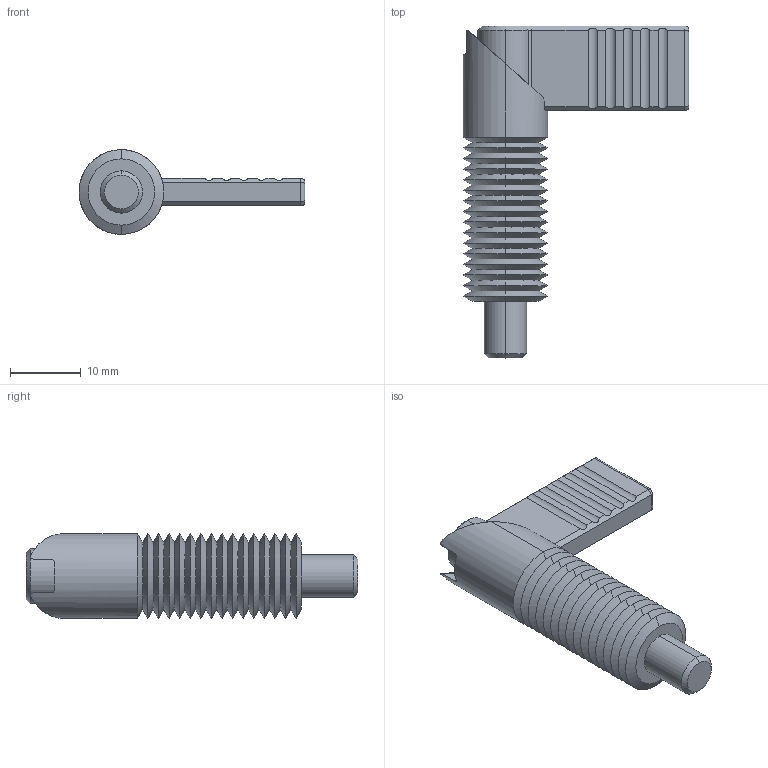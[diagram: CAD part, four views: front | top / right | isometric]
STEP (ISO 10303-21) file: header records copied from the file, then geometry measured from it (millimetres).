
FILE_DESCRIPTION (( 'STEP AP203' ), '1' );
FILE_NAME ('32501.W0324.step', '2016-02-10T17:20:09', ( 'User' ), ( '' ), 'SwSTEP 2.0', 'SolidWorks 2009', '' );
FILE_SCHEMA (( 'CONFIG_CONTROL_DESIGN' ));
Length unit declared in the file: millimetre
Products named in the file (3): 32501.W0324; Part1_32501.W0324; Part2_32501.W0324
Assembly tree (2 placements, depth 2):
  32501.W0324
    Part1_32501.W0324
    Part2_32501.W0324
Bounding box: 32 x 47 x 12 mm (x, y, z)
Volume: 3750.1 mm3; surface area: 4623.6 mm2
Topology: 2 solids, 2 shells, 143 faces, 320 edges, 184 vertices
Faces by surface type: cone 76, cylinder 40, plane 27
Entity records: 4267 total; most frequent: CARTESIAN_POINT 838, DIRECTION 686, ORIENTED_EDGE 640, EDGE_CURVE 320, AXIS2_PLACEMENT_3D 260, VERTEX_POINT 184, VECTOR 166, LINE 166
